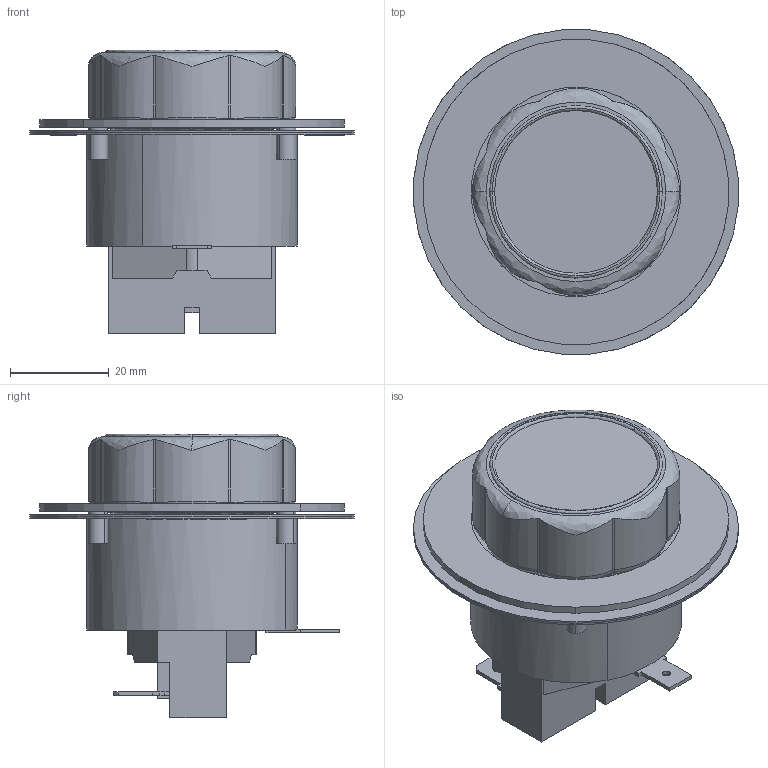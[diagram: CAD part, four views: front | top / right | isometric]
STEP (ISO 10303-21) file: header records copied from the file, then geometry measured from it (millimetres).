
FILE_DESCRIPTION(('CAx-IF Rec.Pracs.---Model Styling and Organization---1.2---2011-12-15','CAx-IF Rec.Pracs.---Geometric and Assembly Validation Properties---4.1---2014-06-16','CAx-IF Rec.Pracs.---PMI Polyline Presentation---2.0---2013-05-24'),'2;1');
FILE_NAME('01EYR0NY04.stp','2018-04-12T09:36:58+02:00',(''),(''),'STEP Interface 4.1 Sp1 by CT CoreTechnologie','3D_Evolution4.1 Sp1 by CT CoreTechnologie','');
FILE_SCHEMA(('AUTOMOTIVE_DESIGN { 1 0 10303 214 1 1 1 1 }'));
Length unit declared in the file: millimetre
Products named in the file (7): 01E-R0N-04; 01F-805-03; 00Z-Z02-04; 01E-R0D-05; 00E-S0T-02; 00E-U0Q-02; 002-16H-0A
Assembly tree (6 placements, depth 2):
  01E-R0N-04
    01F-805-03
    00Z-Z02-04
    01E-R0D-05
    00E-S0T-02
    00E-U0Q-02
    002-16H-0A
Bounding box: 65.76 x 65.76 x 57.5 mm (x, y, z)
Volume: 30697.1 mm3; surface area: 40454.6 mm2
Topology: 6 solids, 6 shells, 453 faces, 1226 edges, 821 vertices
Faces by surface type: plane 249, cylinder 145, bspline 59
Entity records: 19873 total; most frequent: CARTESIAN_POINT 4696, ORIENTED_EDGE 2452, DIRECTION 2413, EDGE_CURVE 1226, AXIS2_PLACEMENT_3D 836, VERTEX_POINT 821, VECTOR 741, LINE 741
